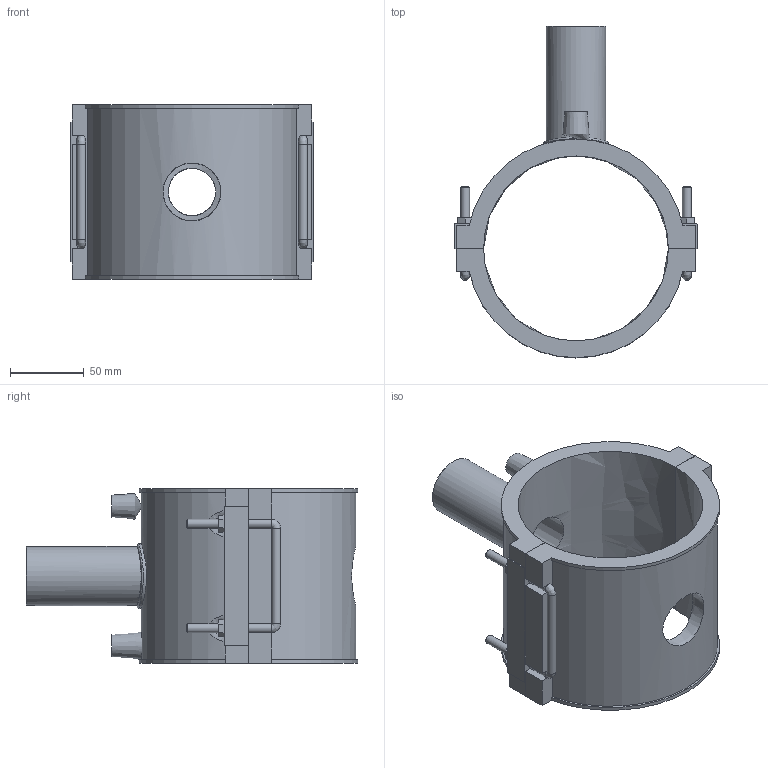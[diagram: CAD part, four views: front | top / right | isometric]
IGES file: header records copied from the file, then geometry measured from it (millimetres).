
Global section: file name: 495804125040.ipt; native system: Autodesk Inventor 2015; preprocessor: unknown; author: KIM; date: 20180426.120840; units: millimetre
Bounding box: 164 x 224.45 x 118 mm (x, y, z)
Volume: 603289 mm3; surface area: 150929.9 mm2
Topology: 2 solids, 2 shells, 133 faces, 340 edges, 214 vertices
Faces by surface type: plane 85, cylinder 22, revolution 10, bspline 9, cone 7
Full cylindrical faces by diameter (mm): 4 x2, 6 x10, 40 x1, 44 x1
